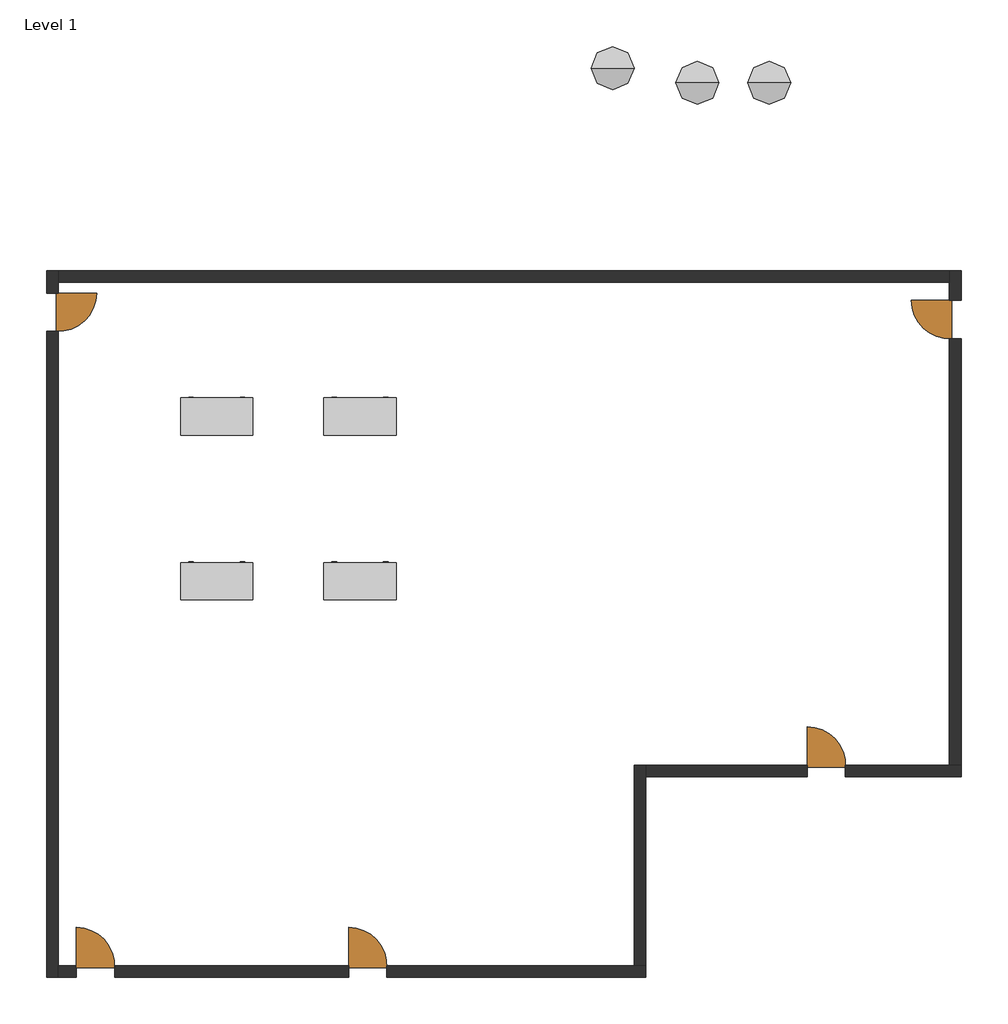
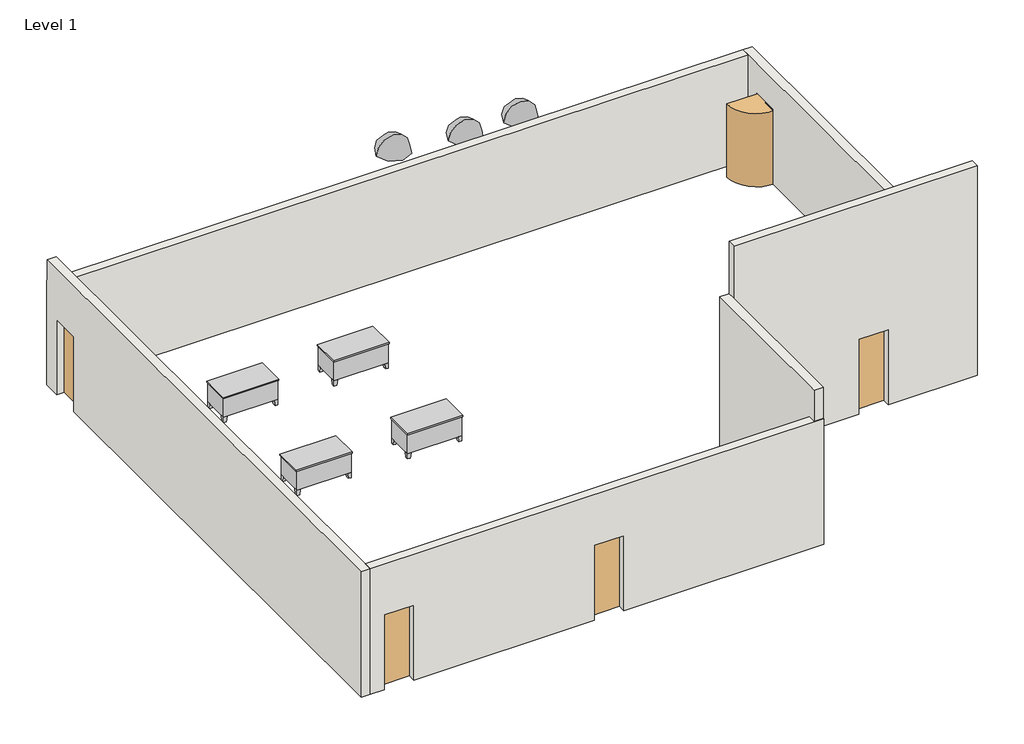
# One storey: 10 doors, 6 walls, 4 furniture elements, 3 geographic elements.
"""IFC4 building model written with IfcOpenShell, lengths in millimetres."""

from ifc_helpers import new_model, si_unit, origin, place, context, project, spatial, faceted_brep, transform, mapped, element, save
from components import door_partition_swing_single_wh_interior_49d02ec1, door_partition_swing_single_wh_interior_e698f6d7, pnl_pf_pnl_pf_4_cdf92fc8, pnl_pf_pnl_pf_4_b2a4cf2d, desk_1500_x_750_4c5f3064, geographic_element_e8c3bac9

model = new_model("IFC4")

# Units and contexts
model_context = context("Model", 3, world=origin())
ifc_project = project(units=[si_unit("LENGTHUNIT", "METRE", prefix="MILLI")], contexts=[model_context])

# Site, building, storey
site = spatial("IfcSite", under=ifc_project)
building = spatial("IfcBuilding", under=site)
storey = spatial("IfcBuildingStorey", under=building, Name="Level 1", Elevation=0.0)

# Doors
placement = place(None, origin())
door_partition_swing_single_wh_interior_shape = door_partition_swing_single_wh_interior_49d02ec1(model_context)
element("IfcDoor", 1, ObjectType="Door_Partition_Swing_Single_WH : Interior", at=placement, inside=storey, context=model_context, shape_type="MappedRepresentation", body=[
    mapped(door_partition_swing_single_wh_interior_shape, transform((-7092.2672395, -6001.280369, 0.0), x_axis=(1.0, 0.0, 0.0), y_axis=(0.0, 1.0, 0.0), z_axis=(0.0, 0.0, 1.0))),
])
element("IfcDoor", 2, ObjectType="Door_Partition_Swing_Single_WH : Interior", at=placement, inside=storey, context=model_context, shape_type="MappedRepresentation", body=[
    mapped(door_partition_swing_single_wh_interior_shape, transform((2661.3327605, -1734.080369, 0.0), x_axis=(1.0, 0.0, 0.0), y_axis=(0.0, 1.0, 0.0), z_axis=(0.0, 0.0, 1.0))),
])
element("IfcDoor", 3, ObjectType="Door_Partition_Swing_Single_WH : Interior", at=placement, inside=storey, context=model_context, shape_type="MappedRepresentation", body=[
    mapped(door_partition_swing_single_wh_interior_shape, transform((-13779.5019194, 8037.8849511, 0.0), x_axis=(0.0, -1.0, 0.0), y_axis=(1.0, 0.0, 0.0), z_axis=(0.0, 0.0, 1.0))),
])
element("IfcDoor", 4, ObjectType="Door_Partition_Swing_Single_WH : Interior", at=placement, inside=storey, context=model_context, shape_type="MappedRepresentation", body=[
    mapped(door_partition_swing_single_wh_interior_shape, transform((-12883.4672395, -6001.280369, 0.0), x_axis=(1.0, 0.0, 0.0), y_axis=(0.0, 1.0, 0.0), z_axis=(0.0, 0.0, 1.0))),
])
door_partition_swing_single_wh_interior_2_shape = door_partition_swing_single_wh_interior_e698f6d7(model_context)
element("IfcDoor", 5, ObjectType="Door_Partition_Swing_Single_WH : Interior", at=placement, inside=storey, context=model_context, shape_type="MappedRepresentation", body=[
    mapped(door_partition_swing_single_wh_interior_2_shape, transform((5422.8980806, 7885.4849511, 0.0), x_axis=(0.0, -1.0, 0.0), y_axis=(1.0, 0.0, 0.0), z_axis=(0.0, 0.0, 1.0))),
])
pnl_pf_pnl_pf_4_shape = pnl_pf_pnl_pf_4_cdf92fc8(model_context)
element("IfcDoor", 6, ObjectType="Pnl_PF : Pnl_PF 4", at=placement, inside=storey, context=model_context, shape_type="MappedRepresentation", body=[
    mapped(pnl_pf_pnl_pf_4_shape, transform((-7480.3019194, -5876.280369, 0.0), x_axis=(1.0, 0.0, 0.0), y_axis=(0.0, 1.0, 0.0), z_axis=(0.0, 0.0, 1.0))),
])
element("IfcDoor", 7, ObjectType="Pnl_PF : Pnl_PF 4", at=placement, inside=storey, context=model_context, shape_type="MappedRepresentation", body=[
    mapped(pnl_pf_pnl_pf_4_shape, transform((-13271.5019194, -5876.280369, 0.0), x_axis=(1.0, 0.0, 0.0), y_axis=(0.0, 1.0, 0.0), z_axis=(0.0, 0.0, 1.0))),
])
element("IfcDoor", 8, ObjectType="Pnl_PF : Pnl_PF 4", at=placement, inside=storey, context=model_context, shape_type="MappedRepresentation", body=[
    mapped(pnl_pf_pnl_pf_4_shape, transform((-13654.5019194, 8425.919631, 0.0), x_axis=(0.0, -1.0, 0.0), y_axis=(1.0, 0.0, 0.0), z_axis=(0.0, 0.0, 1.0))),
])
element("IfcDoor", 9, ObjectType="Pnl_PF : Pnl_PF 4", at=placement, inside=storey, context=model_context, shape_type="MappedRepresentation", body=[
    mapped(pnl_pf_pnl_pf_4_shape, transform((2273.2980806, -1609.080369, 0.0), x_axis=(1.0, 0.0, 0.0), y_axis=(0.0, 1.0, 0.0), z_axis=(0.0, 0.0, 1.0))),
])
pnl_pf_pnl_pf_4_2_shape = pnl_pf_pnl_pf_4_b2a4cf2d(model_context)
element("IfcDoor", 10, ObjectType="Pnl_PF : Pnl_PF 4", at=placement, inside=storey, context=model_context, shape_type="MappedRepresentation", body=[
    mapped(pnl_pf_pnl_pf_4_2_shape, transform((5297.8980806, 8273.519631, 0.0), x_axis=(0.0, -1.0, 0.0), y_axis=(1.0, 0.0, 0.0), z_axis=(0.0, 0.0, 1.0))),
])

# Furniture
desk_1500_x_750_shape = desk_1500_x_750_4c5f3064(model_context)
element("IfcFurniture", 11, ObjectType="Desk : 1500 X 750", at=placement, inside=storey, context=model_context, shape_type="MappedRepresentation", body=[
    mapped(desk_1500_x_750_shape, transform((-11036.3019194, 5428.719631, 0.0), x_axis=(1.0, 0.0, 0.0), y_axis=(0.0, 1.0, 0.0), z_axis=(0.0, 0.0, 1.0))),
])
element("IfcFurniture", 12, ObjectType="Desk : 1500 X 750", at=placement, inside=storey, context=model_context, shape_type="MappedRepresentation", body=[
    mapped(desk_1500_x_750_shape, transform((-11036.3019194, 1923.519631, 0.0), x_axis=(1.0, 0.0, 0.0), y_axis=(0.0, 1.0, 0.0), z_axis=(0.0, 0.0, 1.0))),
])
element("IfcFurniture", 13, ObjectType="Desk : 1500 X 750", at=placement, inside=storey, context=model_context, shape_type="MappedRepresentation", body=[
    mapped(desk_1500_x_750_shape, transform((-7988.3019194, 5428.719631, 0.0), x_axis=(1.0, 0.0, 0.0), y_axis=(0.0, 1.0, 0.0), z_axis=(0.0, 0.0, 1.0))),
])
element("IfcFurniture", 14, ObjectType="Desk : 1500 X 750", at=placement, inside=storey, context=model_context, shape_type="MappedRepresentation", body=[
    mapped(desk_1500_x_750_shape, transform((-7988.3019194, 1923.519631, 0.0), x_axis=(1.0, 0.0, 0.0), y_axis=(0.0, 1.0, 0.0), z_axis=(0.0, 0.0, 1.0))),
])

# Geographic elements
geographic_element_shape = geographic_element_e8c3bac9(model_context)
element("IfcGeographicElement", 15, ObjectType="Shubbery : Shubbery", at=placement, inside=storey, context=model_context, shape_type="MappedRepresentation", body=[
    mapped(geographic_element_shape, transform((1460.4980806, 12896.319631, 0.0), x_axis=(1.0, 0.0, 0.0), y_axis=(0.0, 1.0, 0.0), z_axis=(0.0, 0.0, 1.0))),
])
element("IfcGeographicElement", 16, ObjectType="Shubbery : Shubbery", at=placement, inside=storey, context=model_context, shape_type="MappedRepresentation", body=[
    mapped(geographic_element_shape, transform((-63.5019194, 12896.319631, 0.0), x_axis=(1.0, 0.0, 0.0), y_axis=(0.0, 1.0, 0.0), z_axis=(0.0, 0.0, 1.0))),
])
element("IfcGeographicElement", 17, ObjectType="Shubbery : Shubbery", at=placement, inside=storey, context=model_context, shape_type="MappedRepresentation", body=[
    mapped(geographic_element_shape, transform((-1864.5183381, 13213.8874183, 0.0), x_axis=(1.0, 0.0, 0.0), y_axis=(0.0, 1.0, 0.0), z_axis=(0.0, 0.0, 1.0))),
])

# Walls
element("IfcWall", 18, ObjectType="Generic - 250mm", at=placement, inside=storey, context=model_context, shape_type="Brep", body=[
    faceted_brep([(-13654.5019194, -6126.280369, 0.0), (-13654.5019194, -5876.280369, 0.0), (-13654.5019194, 7613.119631, 0.0), (-13654.5019194, 7613.119631, 2184.4), (-13654.5019194, 8425.919631, 2184.4), (-13654.5019194, 8425.919631, 0.0), (-13654.5019194, 8656.519631, 0.0), (-13654.5019194, 8906.519631, 0.0), (-13654.5019194, 8906.519631, 3048.0), (-13654.5019194, 8883.119631, 3048.0), (-13654.5019194, 8883.119631, 3657.6), (-13654.5019194, -5876.280369, 3657.6), (-13654.5019194, -6126.280369, 3657.6), (-13904.5019194, 7613.119631, 2184.4), (-13904.5019194, 7613.119631, 0.0), (-13904.5019194, -6126.280369, 0.0), (-13904.5019194, -6126.280369, 3657.6), (-13904.5019194, 8883.119631, 3657.6), (-13904.5019194, 8883.119631, 3048.0), (-13904.5019194, 8906.519631, 3048.0), (-13904.5019194, 8906.519631, 0.0), (-13904.5019194, 8425.919631, 0.0), (-13904.5019194, 8425.919631, 2184.4)], [[[0, 1, 2, 3, 4, 5, 6, 7, 8, 9, 10, 11, 12]], [[13, 14, 15, 16, 17, 18, 19, 20, 21, 22]], [[21, 20, 7, 6, 5]], [[15, 14, 2, 1, 0]], [[12, 11, 10, 17, 16]], [[0, 12, 16, 15]], [[18, 9, 8, 19]], [[8, 7, 20, 19]], [[10, 9, 18, 17]], [[5, 4, 22, 21]], [[3, 2, 14, 13]], [[4, 3, 13, 22]]]),
])
element("IfcWall", 19, ObjectType="Generic - 250mm", at=placement, inside=storey, context=model_context, shape_type="Brep", body=[
    faceted_brep([(-13654.5019194, 8656.519631, 0.0), (5297.8980806, 8656.519631, 0.0), (5297.8980806, 8656.519631, 3048.0), (-13654.5019194, 8656.519631, 3048.0), (-13654.5019194, 8906.519631, 0.0), (-13654.5019194, 8906.519631, 3048.0), (5297.8980806, 8906.519631, 3048.0), (5297.8980806, 8906.519631, 0.0), (-13654.5019194, 8883.119631, 3048.0), (-13654.5019194, 8679.919631, 3048.0)], [[[0, 1, 2, 3]], [[4, 5, 6, 7]], [[1, 0, 4, 7]], [[3, 2, 6, 5, 8, 9]], [[0, 3, 9, 8, 5, 4]], [[2, 1, 7, 6]]]),
])
element("IfcWall", 20, ObjectType="Generic - 250mm", at=placement, inside=storey, context=model_context, shape_type="Brep", body=[
    faceted_brep([(-12458.7019194, -6126.280369, 2184.4), (-12458.7019194, -6126.280369, 0.0), (-7480.3019194, -6126.280369, 0.0), (-7480.3019194, -6126.280369, 2184.4), (-6667.5019194, -6126.280369, 2184.4), (-6667.5019194, -6126.280369, 0.0), (-1157.7019194, -6126.280369, 0.0), (-1157.7019194, -6126.280369, 3657.6), (-13654.5019194, -6126.280369, 3657.6), (-13654.5019194, -6126.280369, 0.0), (-13271.5019194, -6126.280369, 0.0), (-13271.5019194, -6126.280369, 2184.4), (-7480.3019194, -5876.280369, 0.0), (-12458.7019194, -5876.280369, 0.0), (-12458.7019194, -5876.280369, 2184.4), (-13271.5019194, -5876.280369, 2184.4), (-13271.5019194, -5876.280369, 0.0), (-13654.5019194, -5876.280369, 0.0), (-13654.5019194, -5876.280369, 3657.6), (-1407.7019194, -5876.280369, 3657.6), (-1157.7019194, -5876.280369, 3657.6), (-1157.7019194, -5876.280369, 0.0), (-1407.7019194, -5876.280369, 0.0), (-6667.5019194, -5876.280369, 0.0), (-6667.5019194, -5876.280369, 2184.4), (-7480.3019194, -5876.280369, 2184.4), (-1157.7019194, -6102.880369, 3657.6)], [[[0, 1, 2, 3, 4, 5, 6, 7, 8, 9, 10, 11]], [[12, 13, 14, 15, 16, 17, 18, 19, 20, 21, 22, 23, 24, 25]], [[6, 5, 23, 22, 21]], [[10, 9, 17, 16]], [[2, 1, 13, 12]], [[8, 7, 26, 20, 19, 18]], [[9, 8, 18, 17]], [[7, 6, 21, 20, 26]], [[12, 25, 3, 2]], [[24, 23, 5, 4]], [[25, 24, 4, 3]], [[16, 15, 11, 10]], [[14, 13, 1, 0]], [[15, 14, 0, 11]]]),
])
element("IfcWall", 21, ObjectType="Generic - 250mm", at=placement, inside=storey, context=model_context, shape_type="Brep", body=[
    faceted_brep([(-1157.7019194, -5876.280369, 0.0), (-1157.7019194, -1859.080369, 0.0), (-1157.7019194, -1609.080369, 0.0), (-1157.7019194, -1609.080369, 4572.0), (-1157.7019194, -6102.880369, 4572.0), (-1157.7019194, -6102.880369, 3657.6), (-1157.7019194, -5876.280369, 3657.6), (-1407.7019194, -5876.280369, 0.0), (-1407.7019194, -5876.280369, 3657.6), (-1407.7019194, -5899.680369, 3657.6), (-1407.7019194, -6102.880369, 3657.6), (-1407.7019194, -6102.880369, 4572.0), (-1407.7019194, -1609.080369, 4572.0), (-1407.7019194, -1609.080369, 0.0)], [[[0, 1, 2, 3, 4, 5, 6]], [[7, 8, 9, 10, 11, 12, 13]], [[2, 1, 0, 7, 13]], [[4, 3, 12, 11]], [[3, 2, 13, 12]], [[5, 10, 9, 8, 6]], [[0, 6, 8, 7]], [[5, 4, 11, 10]]]),
])
element("IfcWall", 22, ObjectType="Generic - 250mm", at=placement, inside=storey, context=model_context, shape_type="Brep", body=[
    faceted_brep([(3086.0980806, -1859.080369, 2184.4), (3086.0980806, -1859.080369, 0.0), (5547.8980806, -1859.080369, 0.0), (5547.8980806, -1859.080369, 6096.0), (-1157.7019194, -1859.080369, 6096.0), (-1157.7019194, -1859.080369, 0.0), (2273.2980806, -1859.080369, 0.0), (2273.2980806, -1859.080369, 2184.4), (5547.8980806, -1609.080369, 0.0), (5297.8980806, -1609.080369, 0.0), (3086.0980806, -1609.080369, 0.0), (3086.0980806, -1609.080369, 2184.4), (2273.2980806, -1609.080369, 2184.4), (2273.2980806, -1609.080369, 0.0), (-1157.7019194, -1609.080369, 0.0), (-1157.7019194, -1609.080369, 4572.0), (-1157.7019194, -1609.080369, 6096.0), (5547.8980806, -1609.080369, 6096.0), (5547.8980806, -1609.080369, 3048.0)], [[[0, 1, 2, 3, 4, 5, 6, 7]], [[8, 9, 10, 11, 12, 13, 14, 15, 16, 17, 18]], [[6, 5, 14, 13]], [[2, 1, 10, 9, 8]], [[4, 3, 17, 16]], [[5, 4, 16, 15, 14]], [[3, 2, 8, 18, 17]], [[13, 12, 7, 6]], [[11, 10, 1, 0]], [[12, 11, 0, 7]]]),
])
element("IfcWall", 23, ObjectType="Generic - 250mm", at=placement, inside=storey, context=model_context, shape_type="Brep", body=[
    faceted_brep([(5547.8980806, -1609.080369, 0.0), (5547.8980806, 7460.719631, 0.0), (5547.8980806, 7460.719631, 2184.4), (5547.8980806, 8273.519631, 2184.4), (5547.8980806, 8273.519631, 0.0), (5547.8980806, 8906.519631, 0.0), (5547.8980806, 8906.519631, 3048.0), (5547.8980806, -1609.080369, 3048.0), (5297.8980806, 7460.719631, 2184.4), (5297.8980806, 7460.719631, 0.0), (5297.8980806, -1609.080369, 0.0), (5297.8980806, -1609.080369, 3048.0), (5297.8980806, 8656.519631, 3048.0), (5297.8980806, 8906.519631, 3048.0), (5297.8980806, 8906.519631, 0.0), (5297.8980806, 8656.519631, 0.0), (5297.8980806, 8273.519631, 0.0), (5297.8980806, 8273.519631, 2184.4)], [[[0, 1, 2, 3, 4, 5, 6, 7]], [[8, 9, 10, 11, 12, 13, 14, 15, 16, 17]], [[10, 9, 1, 0]], [[16, 15, 14, 5, 4]], [[7, 6, 13, 12, 11]], [[0, 7, 11, 10]], [[6, 5, 14, 13]], [[4, 3, 17, 16]], [[2, 1, 9, 8]], [[3, 2, 8, 17]]]),
])

save(model, "model.ifc")
